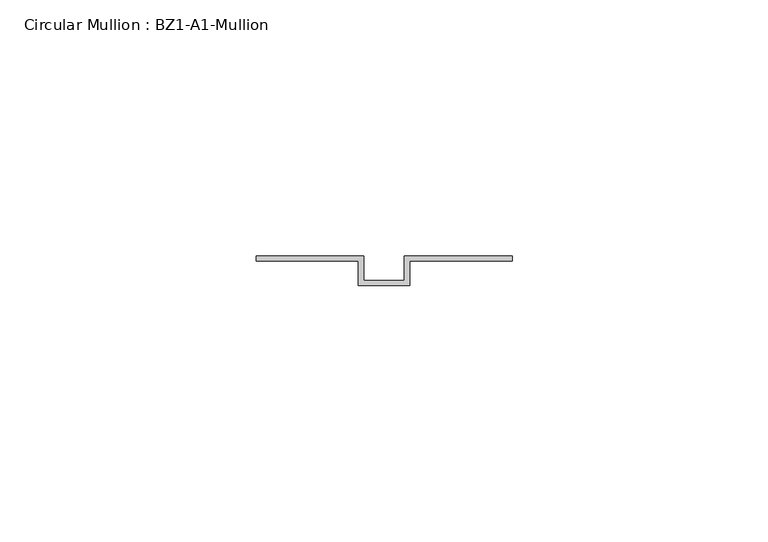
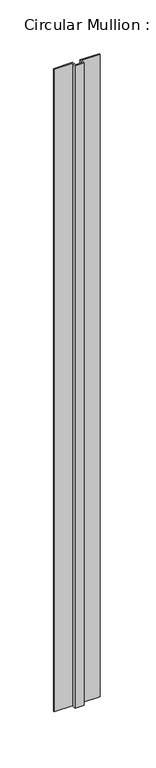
"""IFC4 building model written with IfcOpenShell, lengths in millimetres: member geometry, Circular Mullion : BZ1-A1-Mullion."""

from ifc_helpers import new_model, si_unit, frame, origin, place, context, project, spatial, polyline, outline, extrude, source, transform, mapped, element, save


def circular_mullion_bz1_a1_mullion_f4887a20(model_context):
    return source(origin(), model_context, "Body", "SweptSolid", [
        extrude(outline(polyline([(-25.0, 11.0), (-4.0, 11.0), (-4.0, 6.2), (4.0, 6.2), (4.0, 11.0), (25.0, 11.0), (25.0, 10.0), (5.0, 10.0), (5.0, 5.2), (-5.0, 5.2), (-5.0, 10.0), (-25.0, 10.0), (-25.0, 11.0)])), frame((0.0, 0.0, -733.0555556), z_axis=(0.0, 0.0, 1.0), x_axis=(1.0, 0.0, 0.0)), (0.0, 0.0, 1.0), 733.0555556),
    ])


if __name__ == "__main__":
    model = new_model("IFC4")
    model_context = context("Model", 3, world=origin())
    ifc_project = project(units=[si_unit("LENGTHUNIT", "METRE", prefix="MILLI")], contexts=[model_context])
    site = spatial("IfcSite", under=ifc_project)
    building = spatial("IfcBuilding", under=site)
    placement = place(None, origin())
    circular_mullion_bz1_a1_mullion_shape = circular_mullion_bz1_a1_mullion_f4887a20(model_context)
    element("IfcMember", 1, ObjectType="Circular Mullion : BZ1-A1-Mullion", at=placement, inside=building, context=model_context, shape_type="MappedRepresentation", body=[
        mapped(circular_mullion_bz1_a1_mullion_shape, transform((0.0, 0.0, 0.0), x_axis=(1.0, 0.0, 0.0), y_axis=(0.0, 1.0, 0.0), z_axis=(0.0, 0.0, 1.0))),
    ])
    save(model, "model.ifc")
